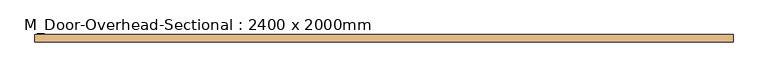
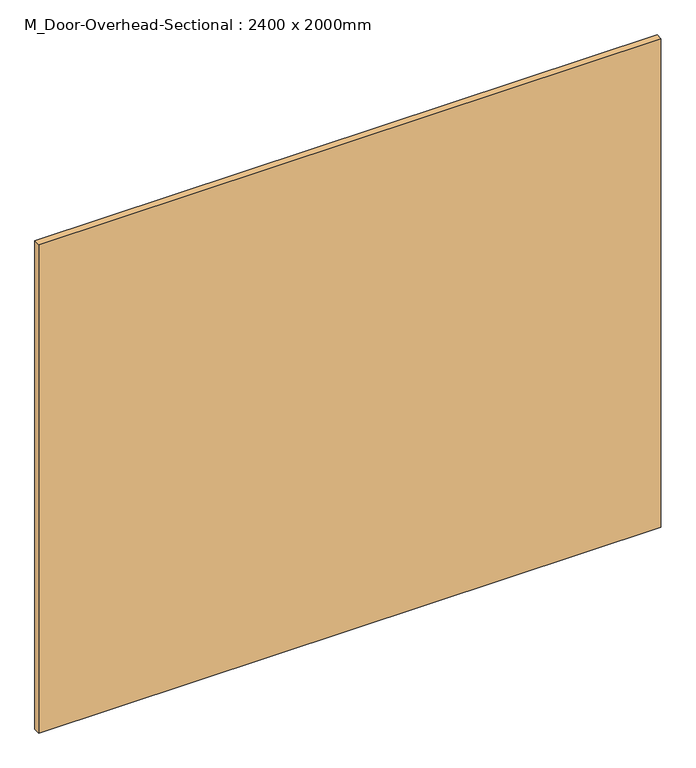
"""IFC4 building model written with IfcOpenShell, lengths in millimetres: door geometry, M_Door-Overhead-Sectional : 2400 x 2000mm."""

from ifc_helpers import new_model, si_unit, origin, origin_with_axes, place, context, project, spatial, polyline, outline, extrude, source, transform, mapped, element, save


def m_door_overhead_sectional_2400_x_2000mm_d75fed9d(model_context):
    return source(origin(), model_context, "Body", "SweptSolid", [
        extrude(outline(polyline([(1927.8419781, -85.0), (1927.8419781, -125.0), (-1927.8419781, -125.0), (-1927.8419781, -85.0), (1927.8419781, -85.0)])), origin_with_axes(), (0.0, 0.0, 1.0), 3200.0),
    ])


if __name__ == "__main__":
    model = new_model("IFC4")
    model_context = context("Model", 3, world=origin())
    ifc_project = project(units=[si_unit("LENGTHUNIT", "METRE", prefix="MILLI")], contexts=[model_context])
    site = spatial("IfcSite", under=ifc_project)
    building = spatial("IfcBuilding", under=site)
    placement = place(None, origin())
    m_door_overhead_sectional_2400_x_2000mm_shape = m_door_overhead_sectional_2400_x_2000mm_d75fed9d(model_context)
    element("IfcDoor", 1, ObjectType="M_Door-Overhead-Sectional : 2400 x 2000mm", at=placement, inside=building, context=model_context, shape_type="MappedRepresentation", body=[
        mapped(m_door_overhead_sectional_2400_x_2000mm_shape, transform((0.0, 0.0, 0.0), x_axis=(1.0, 0.0, 0.0), y_axis=(0.0, 1.0, 0.0), z_axis=(0.0, 0.0, 1.0))),
    ])
    save(model, "model.ifc")
